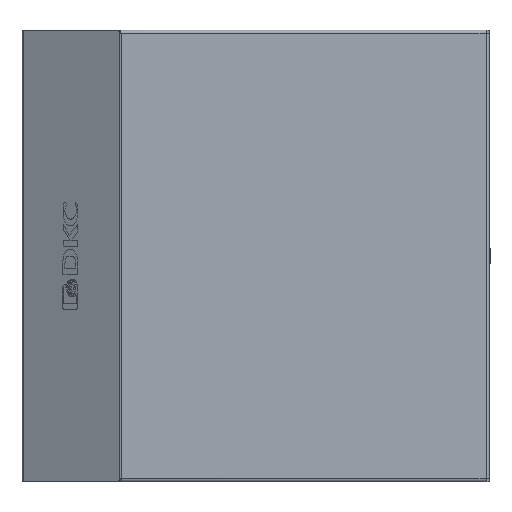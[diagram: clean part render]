
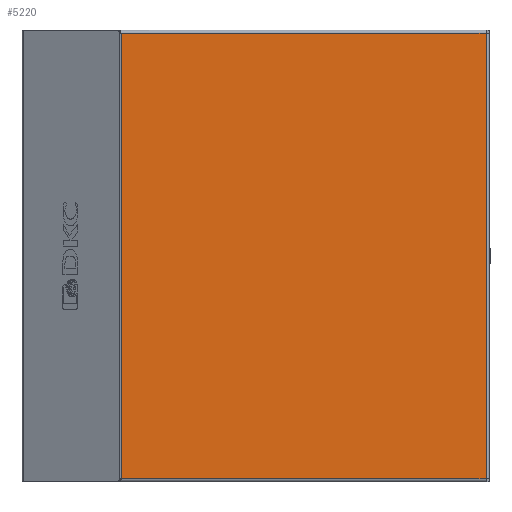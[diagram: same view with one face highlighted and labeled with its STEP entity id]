
A CAD part, left-side view. The second image highlights one B-rep face of the part: STEP entity #5220.
In plain terms, the highlighted planar face has unit normal (-1, 0, 0).
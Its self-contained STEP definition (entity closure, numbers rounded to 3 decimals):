
#811 = VERTEX_POINT ( 'NONE', #11481 ) ;
#3104 = ORIENTED_EDGE ( 'NONE', *, *, #3325, .T. ) ;
#3145 = ORIENTED_EDGE ( 'NONE', *, *, #3429, .F. ) ;
#3181 = ORIENTED_EDGE ( 'NONE', *, *, #3517, .T. ) ;
#3197 = ORIENTED_EDGE ( 'NONE', *, *, #3608, .T. ) ;
#3325 = EDGE_CURVE ( 'NONE', #11968, #10170, #11813, .T. ) ;
#3429 = EDGE_CURVE ( 'NONE', #811, #10170, #12223, .T. ) ;
#3517 = EDGE_CURVE ( 'NONE', #811, #13084, #12550, .T. ) ;
#3608 = EDGE_CURVE ( 'NONE', #13084, #11968, #13327, .T. ) ;
#4273 = CARTESIAN_POINT ( 'NONE',  ( -1.5, 238.793, -145.4 ) ) ;
#4700 = AXIS2_PLACEMENT_3D ( 'NONE', #12656, #12631, #12624 ) ;
#5220 = ADVANCED_FACE ( 'NONE', ( #12662 ), #12659, .F. ) ;
#6273 = CARTESIAN_POINT ( 'NONE',  ( -1.5, 0.6, -145.4 ) ) ;
#7736 = CARTESIAN_POINT ( 'NONE',  ( -1.5, 238.793, 145.4 ) ) ;
#10170 = VERTEX_POINT ( 'NONE', #6273 ) ;
#11481 = CARTESIAN_POINT ( 'NONE',  ( -1.5, 0.6, 145.4 ) ) ;
#11813 = LINE ( 'NONE', #11816, #13638 ) ;
#11816 = CARTESIAN_POINT ( 'NONE',  ( -1.5, 239.832, -145.4 ) ) ;
#11834 = DIRECTION ( 'NONE',  ( 0., -1., 0. ) ) ;
#11968 = VERTEX_POINT ( 'NONE', #4273 ) ;
#12223 = LINE ( 'NONE', #12239, #13827 ) ;
#12239 = CARTESIAN_POINT ( 'NONE',  ( -1.5, 0.6, 147.5 ) ) ;
#12256 = DIRECTION ( 'NONE',  ( 0., 0., -1. ) ) ;
#12430 = EDGE_LOOP ( 'NONE', ( #3104, #3145, #3181, #3197 ) ) ;
#12550 = LINE ( 'NONE', #12572, #13895 ) ;
#12572 = CARTESIAN_POINT ( 'NONE',  ( -1.5, 0.6, 145.4 ) ) ;
#12575 = DIRECTION ( 'NONE',  ( 0., 1., 0. ) ) ;
#12624 = DIRECTION ( 'NONE',  ( 0., 1., 0. ) ) ;
#12631 = DIRECTION ( 'NONE',  ( 1., 0., 0. ) ) ;
#12656 = CARTESIAN_POINT ( 'NONE',  ( -1.5, 0., 147.5 ) ) ;
#12659 = PLANE ( 'NONE',  #4700 ) ;
#12662 = FACE_OUTER_BOUND ( 'NONE', #12430, .T. ) ;
#12992 = DIRECTION ( 'NONE',  ( 0., 0., -1. ) ) ;
#13084 = VERTEX_POINT ( 'NONE', #7736 ) ;
#13327 = LINE ( 'NONE', #13349, #14015 ) ;
#13349 = CARTESIAN_POINT ( 'NONE',  ( -1.5, 238.793, 147.5 ) ) ;
#13638 = VECTOR ( 'NONE', #11834, 1000. ) ;
#13827 = VECTOR ( 'NONE', #12256, 1000. ) ;
#13895 = VECTOR ( 'NONE', #12575, 1000. ) ;
#14015 = VECTOR ( 'NONE', #12992, 1000. ) ;
